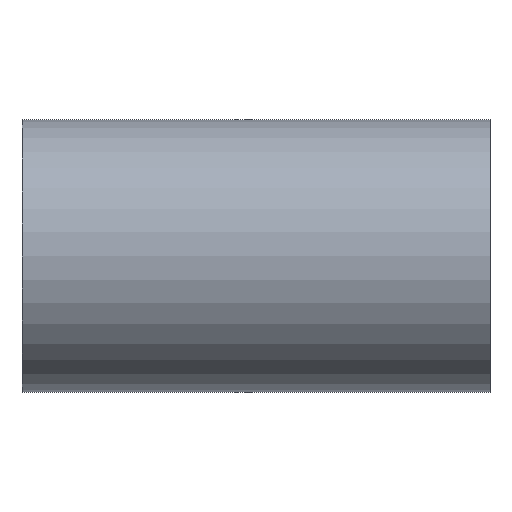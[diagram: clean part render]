
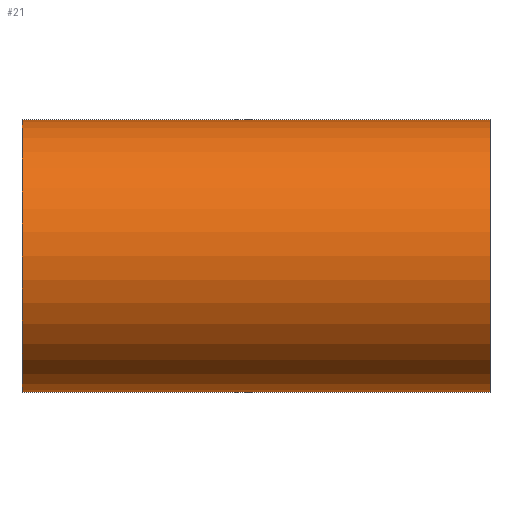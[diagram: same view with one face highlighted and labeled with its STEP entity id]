
A CAD part, front view. The second image highlights one B-rep face of the part: STEP entity #21.
In plain terms, the highlighted cylindrical face has radius 50.8 mm (diameter 101.6 mm), a partial arc.
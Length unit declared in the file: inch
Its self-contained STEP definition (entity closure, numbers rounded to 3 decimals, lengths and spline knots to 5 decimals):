
#21 = ADVANCED_FACE ( 'NONE', ( #254 ), #301, .T. ) ;
#60 = CARTESIAN_POINT ( 'NONE',  ( -3.4375, 0., 2. ) ) ;
#82 = DIRECTION ( 'NONE',  ( -1., 0., 0. ) ) ;
#86 = VECTOR ( 'NONE', #82, 39.37008 ) ;
#93 = ORIENTED_EDGE ( 'NONE', *, *, #602, .T. ) ;
#100 = CARTESIAN_POINT ( 'NONE',  ( 3.4375, 0., 0. ) ) ;
#103 = CARTESIAN_POINT ( 'NONE',  ( -3.4375, 0., -2. ) ) ;
#104 = ORIENTED_EDGE ( 'NONE', *, *, #185, .F. ) ;
#108 = LINE ( 'NONE', #284, #86 ) ;
#131 = ORIENTED_EDGE ( 'NONE', *, *, #377, .T. ) ;
#148 = DIRECTION ( 'NONE',  ( 0., 0., -1. ) ) ;
#153 = CARTESIAN_POINT ( 'NONE',  ( -3.4375, 0., 0. ) ) ;
#185 = EDGE_CURVE ( 'NONE', #204, #651, #280, .T. ) ;
#195 = DIRECTION ( 'NONE',  ( 0., 0., -1. ) ) ;
#199 = VECTOR ( 'NONE', #479, 39.37008 ) ;
#203 = CARTESIAN_POINT ( 'NONE',  ( 3.4375, 0., -2. ) ) ;
#204 = VERTEX_POINT ( 'NONE', #571 ) ;
#254 = FACE_OUTER_BOUND ( 'NONE', #369, .T. ) ;
#276 = ORIENTED_EDGE ( 'NONE', *, *, #569, .F. ) ;
#280 = CIRCLE ( 'NONE', #395, 2. ) ;
#284 = CARTESIAN_POINT ( 'NONE',  ( 3.4375, 0., -2. ) ) ;
#294 = CARTESIAN_POINT ( 'NONE',  ( 3.4375, 0., 0. ) ) ;
#301 = CYLINDRICAL_SURFACE ( 'NONE', #449, 2. ) ;
#303 = CIRCLE ( 'NONE', #349, 2. ) ;
#334 = CARTESIAN_POINT ( 'NONE',  ( 3.4375, 0., 2. ) ) ;
#339 = DIRECTION ( 'NONE',  ( -1., 0., 0. ) ) ;
#349 = AXIS2_PLACEMENT_3D ( 'NONE', #153, #501, #195 ) ;
#369 = EDGE_LOOP ( 'NONE', ( #276, #104, #93, #131 ) ) ;
#377 = EDGE_CURVE ( 'NONE', #636, #419, #303, .T. ) ;
#379 = DIRECTION ( 'NONE',  ( 0., 0., 1. ) ) ;
#395 = AXIS2_PLACEMENT_3D ( 'NONE', #100, #445, #148 ) ;
#419 = VERTEX_POINT ( 'NONE', #103 ) ;
#445 = DIRECTION ( 'NONE',  ( 1., 0., 0. ) ) ;
#449 = AXIS2_PLACEMENT_3D ( 'NONE', #294, #339, #379 ) ;
#479 = DIRECTION ( 'NONE',  ( -1., 0., 0. ) ) ;
#501 = DIRECTION ( 'NONE',  ( 1., 0., 0. ) ) ;
#569 = EDGE_CURVE ( 'NONE', #651, #419, #108, .T. ) ;
#571 = CARTESIAN_POINT ( 'NONE',  ( 3.4375, 0., 2. ) ) ;
#602 = EDGE_CURVE ( 'NONE', #204, #636, #609, .T. ) ;
#609 = LINE ( 'NONE', #334, #199 ) ;
#636 = VERTEX_POINT ( 'NONE', #60 ) ;
#651 = VERTEX_POINT ( 'NONE', #203 ) ;
